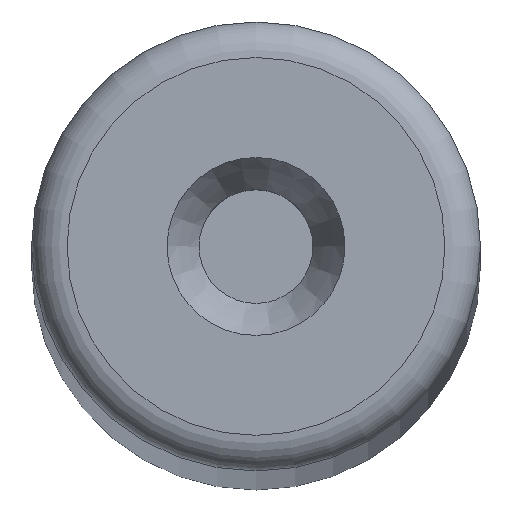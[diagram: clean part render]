
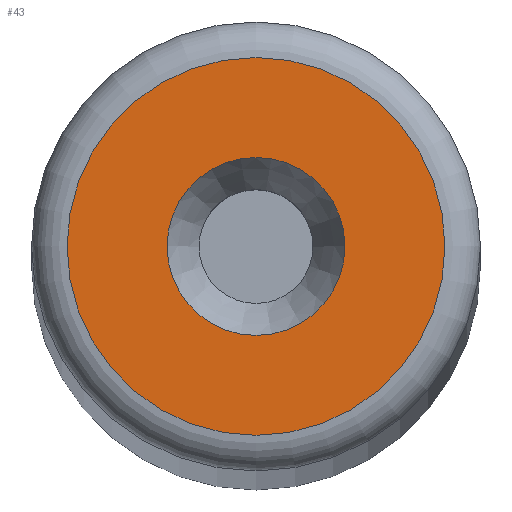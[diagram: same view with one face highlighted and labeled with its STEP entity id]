
A CAD part, top view. The second image highlights one B-rep face of the part: STEP entity #43.
In plain terms, the highlighted planar face has unit normal (0, 0, 1).
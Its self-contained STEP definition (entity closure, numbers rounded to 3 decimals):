
#43=ADVANCED_FACE('',(#58,#59),#54,.T.);
#54=PLANE('',#149);
#58=FACE_BOUND('',#76,.T.);
#59=FACE_BOUND('',#77,.T.);
#76=EDGE_LOOP('',(#96));
#77=EDGE_LOOP('',(#97));
#96=ORIENTED_EDGE('',*,*,#126,.T.);
#97=ORIENTED_EDGE('',*,*,#127,.F.);
#116=VERTEX_POINT('',#214);
#117=VERTEX_POINT('',#216);
#126=EDGE_CURVE('',#116,#116,#136,.T.);
#127=EDGE_CURVE('',#117,#117,#137,.T.);
#136=CIRCLE('',#147,2.655);
#137=CIRCLE('',#148,1.25);
#147=AXIS2_PLACEMENT_3D('',#213,#170,#171);
#148=AXIS2_PLACEMENT_3D('',#215,#172,#173);
#149=AXIS2_PLACEMENT_3D('',#217,#174,#175);
#170=DIRECTION('',(0.,0.,1.));
#171=DIRECTION('',(1.,0.,0.));
#172=DIRECTION('',(0.,0.,1.));
#173=DIRECTION('',(1.,0.,0.));
#174=DIRECTION('',(0.,0.,1.));
#175=DIRECTION('',(1.,0.,0.));
#213=CARTESIAN_POINT('',(0.,0.,154.));
#214=CARTESIAN_POINT('',(2.655,0.,154.));
#215=CARTESIAN_POINT('',(0.,0.,154.));
#216=CARTESIAN_POINT('',(1.25,0.,154.));
#217=CARTESIAN_POINT('',(0.,0.,154.));
